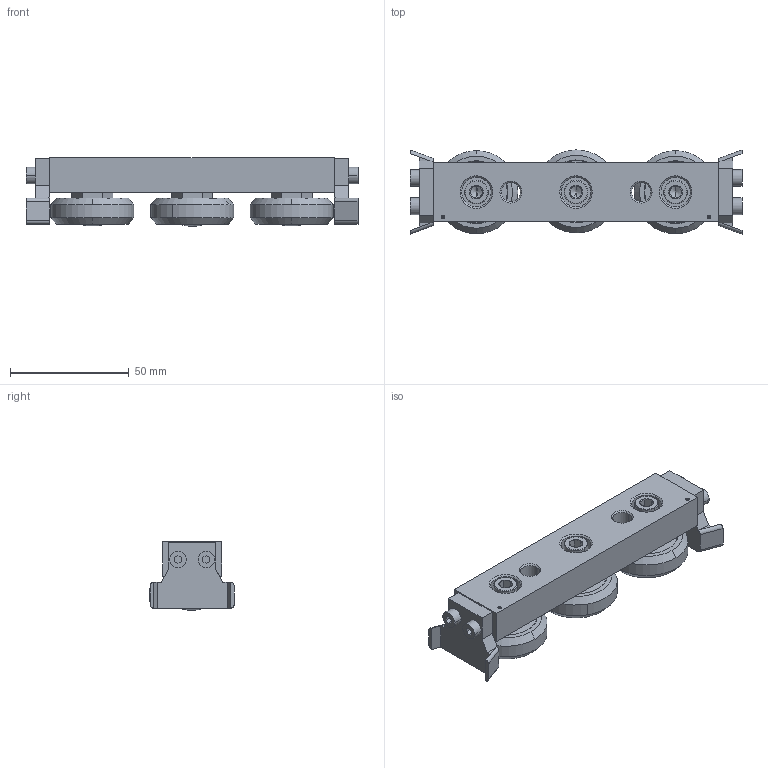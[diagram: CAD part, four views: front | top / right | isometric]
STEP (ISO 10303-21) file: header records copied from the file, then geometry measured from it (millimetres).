
FILE_DESCRIPTION (( 'STEP AP203' ), '1' );
FILE_NAME ('L1943.CSW43-120-2ZU.step', '2019-03-13T08:15:31', ( '' ), ( '' ), 'SwSTEP 2.0', 'SolidWorks 2017', '' );
FILE_SCHEMA (( 'CONFIG_CONTROL_DESIGN' ));
Length unit declared in the file: millimetre
Products named in the file (6): L1943.CSW43-120-2ZU; Part7; Part8; Part1_L1943.CSW43-120-2ZU; Part2; Part3
Assembly tree (9 placements, depth 2):
  L1943.CSW43-120-2ZU
    Part1_L1943.CSW43-120-2ZU
    Part8  x3
    Part2  x2
    Part3
    Part7  x2
Bounding box: 140 x 35.47 x 28.88 mm (x, y, z)
Volume: 78630.8 mm3; surface area: 28155.3 mm2
Topology: 9 solids, 9 shells, 330 faces, 739 edges, 452 vertices
Faces by surface type: plane 161, cone 97, cylinder 62, torus 6, bspline 4
Entity records: 6494 total; most frequent: CARTESIAN_POINT 1228, DIRECTION 1005, ORIENTED_EDGE 882, EDGE_CURVE 441, AXIS2_PLACEMENT_3D 380, VERTEX_POINT 279, VECTOR 245, LINE 245
